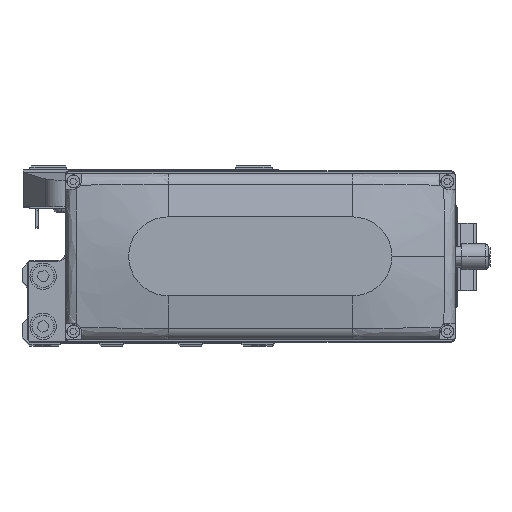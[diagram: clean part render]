
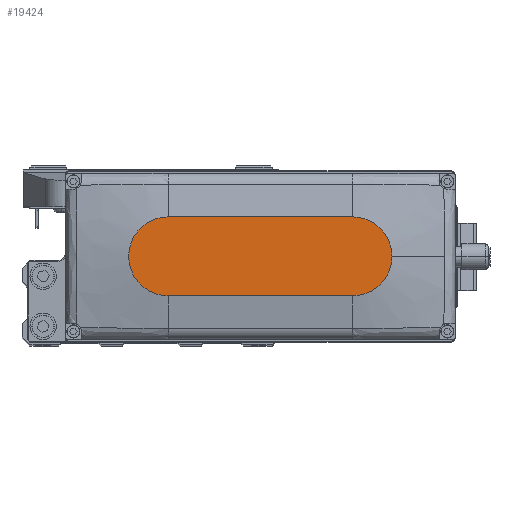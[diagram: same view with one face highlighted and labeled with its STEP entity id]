
A CAD part, top view. The second image highlights one B-rep face of the part: STEP entity #19424.
In plain terms, the highlighted planar face has unit normal (0, 0, 1).
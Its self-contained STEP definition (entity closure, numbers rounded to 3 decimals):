
#600 = DIRECTION ( 'NONE',  ( 1., 0., 0. ) ) ;
#1758 = CARTESIAN_POINT ( 'NONE',  ( 50., 0., 35. ) ) ;
#1896 = CIRCLE ( 'NONE', #7433, 15. ) ;
#2059 = DIRECTION ( 'NONE',  ( 0., 0., 1. ) ) ;
#2605 = EDGE_LOOP ( 'NONE', ( #13455, #33576, #40682, #10236, #37714 ) ) ;
#3097 = CIRCLE ( 'NONE', #27341, 15. ) ;
#3408 = CIRCLE ( 'NONE', #27660, 15. ) ;
#3855 = PLANE ( 'NONE',  #36528 ) ;
#4942 = CARTESIAN_POINT ( 'NONE',  ( 35., 0., 35. ) ) ;
#5125 = CARTESIAN_POINT ( 'NONE',  ( -35., -15., 35. ) ) ;
#6955 = VERTEX_POINT ( 'NONE', #1758 ) ;
#7381 = EDGE_CURVE ( 'NONE', #25682, #29885, #28170, .T. ) ;
#7433 = AXIS2_PLACEMENT_3D ( 'NONE', #31796, #2059, #15293 ) ;
#10236 = ORIENTED_EDGE ( 'NONE', *, *, #42034, .T. ) ;
#11520 = CARTESIAN_POINT ( 'NONE',  ( -35., -15., 35. ) ) ;
#11692 = DIRECTION ( 'NONE',  ( -1., 0., 0. ) ) ;
#12693 = CARTESIAN_POINT ( 'NONE',  ( -35., 15., 35. ) ) ;
#13455 = ORIENTED_EDGE ( 'NONE', *, *, #7381, .T. ) ;
#14200 = CARTESIAN_POINT ( 'NONE',  ( 35., 0., 35. ) ) ;
#14306 = VERTEX_POINT ( 'NONE', #5125 ) ;
#15293 = DIRECTION ( 'NONE',  ( 1., 0., 0. ) ) ;
#15833 = VECTOR ( 'NONE', #24767, 1000. ) ;
#16627 = EDGE_CURVE ( 'NONE', #6955, #25682, #3408, .T. ) ;
#17108 = CARTESIAN_POINT ( 'NONE',  ( 0., 0., 35. ) ) ;
#17385 = EDGE_CURVE ( 'NONE', #14306, #26420, #41288, .T. ) ;
#18196 = DIRECTION ( 'NONE',  ( 0., 0., 1. ) ) ;
#19424 = ADVANCED_FACE ( 'NONE', ( #33609 ), #3855, .T. ) ;
#20089 = EDGE_CURVE ( 'NONE', #29885, #14306, #1896, .T. ) ;
#24767 = DIRECTION ( 'NONE',  ( 1., 0., 0. ) ) ;
#25682 = VERTEX_POINT ( 'NONE', #31202 ) ;
#26420 = VERTEX_POINT ( 'NONE', #27560 ) ;
#27341 = AXIS2_PLACEMENT_3D ( 'NONE', #14200, #27439, #40721 ) ;
#27439 = DIRECTION ( 'NONE',  ( 0., 0., 1. ) ) ;
#27560 = CARTESIAN_POINT ( 'NONE',  ( 35., -15., 35. ) ) ;
#27660 = AXIS2_PLACEMENT_3D ( 'NONE', #4942, #18196, #31421 ) ;
#28170 = LINE ( 'NONE', #41460, #34043 ) ;
#29885 = VERTEX_POINT ( 'NONE', #12693 ) ;
#30339 = DIRECTION ( 'NONE',  ( 0., 0., 1. ) ) ;
#31202 = CARTESIAN_POINT ( 'NONE',  ( 35., 15., 35. ) ) ;
#31421 = DIRECTION ( 'NONE',  ( 1., 0., 0. ) ) ;
#31796 = CARTESIAN_POINT ( 'NONE',  ( -35., 0., 35. ) ) ;
#33576 = ORIENTED_EDGE ( 'NONE', *, *, #20089, .T. ) ;
#33609 = FACE_OUTER_BOUND ( 'NONE', #2605, .T. ) ;
#34043 = VECTOR ( 'NONE', #11692, 1000. ) ;
#36528 = AXIS2_PLACEMENT_3D ( 'NONE', #17108, #30339, #600 ) ;
#37714 = ORIENTED_EDGE ( 'NONE', *, *, #16627, .T. ) ;
#40682 = ORIENTED_EDGE ( 'NONE', *, *, #17385, .T. ) ;
#40721 = DIRECTION ( 'NONE',  ( 1., 0., 0. ) ) ;
#41288 = LINE ( 'NONE', #11520, #15833 ) ;
#41460 = CARTESIAN_POINT ( 'NONE',  ( -35., 15., 35. ) ) ;
#42034 = EDGE_CURVE ( 'NONE', #26420, #6955, #3097, .T. ) ;
